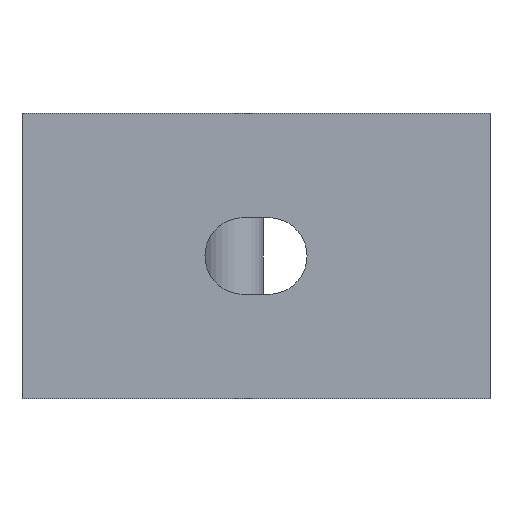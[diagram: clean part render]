
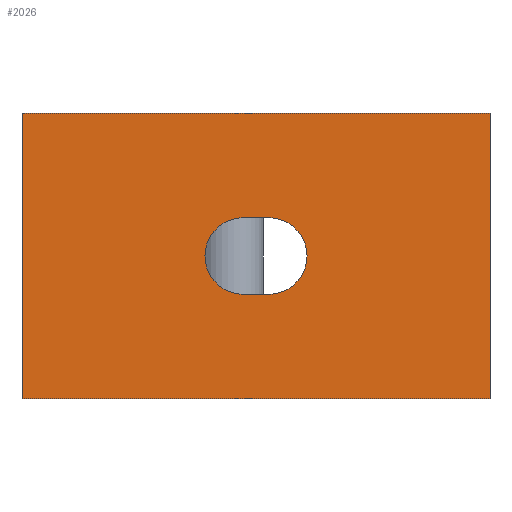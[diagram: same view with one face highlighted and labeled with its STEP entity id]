
A CAD part, front view. The second image highlights one B-rep face of the part: STEP entity #2026.
In plain terms, the highlighted planar face has unit normal (0, -1, 0).
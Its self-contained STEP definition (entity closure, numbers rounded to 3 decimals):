
#22 = LINE ( 'NONE', #1211, #1786 ) ;
#48 = VECTOR ( 'NONE', #135, 1000. ) ;
#58 = CIRCLE ( 'NONE', #1483, 4.5 ) ;
#135 = DIRECTION ( 'NONE',  ( 0., 0., 1. ) ) ;
#136 = CARTESIAN_POINT ( 'NONE',  ( 27.5, -17.5, 23.5 ) ) ;
#150 = ORIENTED_EDGE ( 'NONE', *, *, #1593, .T. ) ;
#165 = CARTESIAN_POINT ( 'NONE',  ( 1.5, -17.5, 11.25 ) ) ;
#234 = CARTESIAN_POINT ( 'NONE',  ( -27.5, -17.5, 23.5 ) ) ;
#273 = VERTEX_POINT ( 'NONE', #333 ) ;
#315 = ORIENTED_EDGE ( 'NONE', *, *, #2278, .T. ) ;
#329 = DIRECTION ( 'NONE',  ( 0., 1., 0. ) ) ;
#333 = CARTESIAN_POINT ( 'NONE',  ( 1.5, -17.5, 2.25 ) ) ;
#335 = DIRECTION ( 'NONE',  ( 0., 1., 0. ) ) ;
#358 = CARTESIAN_POINT ( 'NONE',  ( 27.5, -17.5, -10. ) ) ;
#362 = CARTESIAN_POINT ( 'NONE',  ( -27.5, -17.5, 0. ) ) ;
#398 = EDGE_CURVE ( 'NONE', #477, #2191, #1191, .T. ) ;
#454 = DIRECTION ( 'NONE',  ( -1., 0., 0. ) ) ;
#464 = LINE ( 'NONE', #2108, #2106 ) ;
#474 = CIRCLE ( 'NONE', #2467, 4.5 ) ;
#477 = VERTEX_POINT ( 'NONE', #804 ) ;
#485 = CARTESIAN_POINT ( 'NONE',  ( -1.5, -17.5, 6.75 ) ) ;
#516 = VECTOR ( 'NONE', #2006, 1000. ) ;
#541 = CARTESIAN_POINT ( 'NONE',  ( -32., -17.5, -10. ) ) ;
#556 = ORIENTED_EDGE ( 'NONE', *, *, #848, .T. ) ;
#578 = LINE ( 'NONE', #953, #48 ) ;
#584 = ORIENTED_EDGE ( 'NONE', *, *, #959, .F. ) ;
#621 = ORIENTED_EDGE ( 'NONE', *, *, #398, .F. ) ;
#662 = DIRECTION ( 'NONE',  ( 0., 0., 1. ) ) ;
#703 = EDGE_LOOP ( 'NONE', ( #150, #315, #1713, #2145, #2317 ) ) ;
#736 = LINE ( 'NONE', #541, #2123 ) ;
#779 = CARTESIAN_POINT ( 'NONE',  ( -32., -17.5, 23.5 ) ) ;
#782 = EDGE_CURVE ( 'NONE', #2497, #273, #474, .T. ) ;
#804 = CARTESIAN_POINT ( 'NONE',  ( -27.5, -17.5, -10. ) ) ;
#848 = EDGE_CURVE ( 'NONE', #477, #2533, #736, .T. ) ;
#953 = CARTESIAN_POINT ( 'NONE',  ( 27.5, -17.5, 0. ) ) ;
#959 = EDGE_CURVE ( 'NONE', #2191, #2332, #1177, .T. ) ;
#1008 = CIRCLE ( 'NONE', #2500, 4.5 ) ;
#1136 = DIRECTION ( 'NONE',  ( 0., 0., 1. ) ) ;
#1177 = LINE ( 'NONE', #779, #516 ) ;
#1191 = LINE ( 'NONE', #362, #1791 ) ;
#1211 = CARTESIAN_POINT ( 'NONE',  ( -32., -17.5, 11.25 ) ) ;
#1299 = VERTEX_POINT ( 'NONE', #2582 ) ;
#1306 = EDGE_CURVE ( 'NONE', #2533, #2332, #578, .T. ) ;
#1325 = ORIENTED_EDGE ( 'NONE', *, *, #1306, .T. ) ;
#1341 = FACE_OUTER_BOUND ( 'NONE', #2179, .T. ) ;
#1444 = DIRECTION ( 'NONE',  ( 1., 0., 0. ) ) ;
#1483 = AXIS2_PLACEMENT_3D ( 'NONE', #1876, #2275, #662 ) ;
#1593 = EDGE_CURVE ( 'NONE', #273, #2531, #464, .T. ) ;
#1691 = CARTESIAN_POINT ( 'NONE',  ( 1.5, -17.5, 6.75 ) ) ;
#1713 = ORIENTED_EDGE ( 'NONE', *, *, #1979, .T. ) ;
#1786 = VECTOR ( 'NONE', #1444, 1000. ) ;
#1791 = VECTOR ( 'NONE', #2188, 1000. ) ;
#1873 = AXIS2_PLACEMENT_3D ( 'NONE', #2588, #335, #1136 ) ;
#1876 = CARTESIAN_POINT ( 'NONE',  ( -1.5, -17.5, 6.75 ) ) ;
#1907 = DIRECTION ( 'NONE',  ( 0., 0., 1. ) ) ;
#1961 = CARTESIAN_POINT ( 'NONE',  ( -1.5, -17.5, 2.25 ) ) ;
#1979 = EDGE_CURVE ( 'NONE', #2517, #1299, #58, .T. ) ;
#1989 = CARTESIAN_POINT ( 'NONE',  ( -6., -17.5, 6.75 ) ) ;
#2006 = DIRECTION ( 'NONE',  ( 1., 0., 0. ) ) ;
#2026 = ADVANCED_FACE ( 'NONE', ( #1341, #2532 ), #2146, .F. ) ;
#2100 = DIRECTION ( 'NONE',  ( 0., 0., 1. ) ) ;
#2106 = VECTOR ( 'NONE', #454, 1000. ) ;
#2108 = CARTESIAN_POINT ( 'NONE',  ( -32., -17.5, 2.25 ) ) ;
#2115 = EDGE_CURVE ( 'NONE', #1299, #2497, #22, .T. ) ;
#2123 = VECTOR ( 'NONE', #2398, 1000. ) ;
#2145 = ORIENTED_EDGE ( 'NONE', *, *, #2115, .T. ) ;
#2146 = PLANE ( 'NONE',  #1873 ) ;
#2179 = EDGE_LOOP ( 'NONE', ( #1325, #584, #621, #556 ) ) ;
#2188 = DIRECTION ( 'NONE',  ( 0., 0., 1. ) ) ;
#2191 = VERTEX_POINT ( 'NONE', #234 ) ;
#2275 = DIRECTION ( 'NONE',  ( 0., 1., 0. ) ) ;
#2278 = EDGE_CURVE ( 'NONE', #2531, #2517, #1008, .T. ) ;
#2317 = ORIENTED_EDGE ( 'NONE', *, *, #782, .T. ) ;
#2332 = VERTEX_POINT ( 'NONE', #136 ) ;
#2398 = DIRECTION ( 'NONE',  ( 1., 0., 0. ) ) ;
#2467 = AXIS2_PLACEMENT_3D ( 'NONE', #1691, #2501, #1907 ) ;
#2497 = VERTEX_POINT ( 'NONE', #165 ) ;
#2500 = AXIS2_PLACEMENT_3D ( 'NONE', #485, #329, #2100 ) ;
#2501 = DIRECTION ( 'NONE',  ( 0., 1., 0. ) ) ;
#2517 = VERTEX_POINT ( 'NONE', #1989 ) ;
#2531 = VERTEX_POINT ( 'NONE', #1961 ) ;
#2532 = FACE_BOUND ( 'NONE', #703, .T. ) ;
#2533 = VERTEX_POINT ( 'NONE', #358 ) ;
#2582 = CARTESIAN_POINT ( 'NONE',  ( -1.5, -17.5, 11.25 ) ) ;
#2588 = CARTESIAN_POINT ( 'NONE',  ( -32., -17.5, 23.5 ) ) ;
